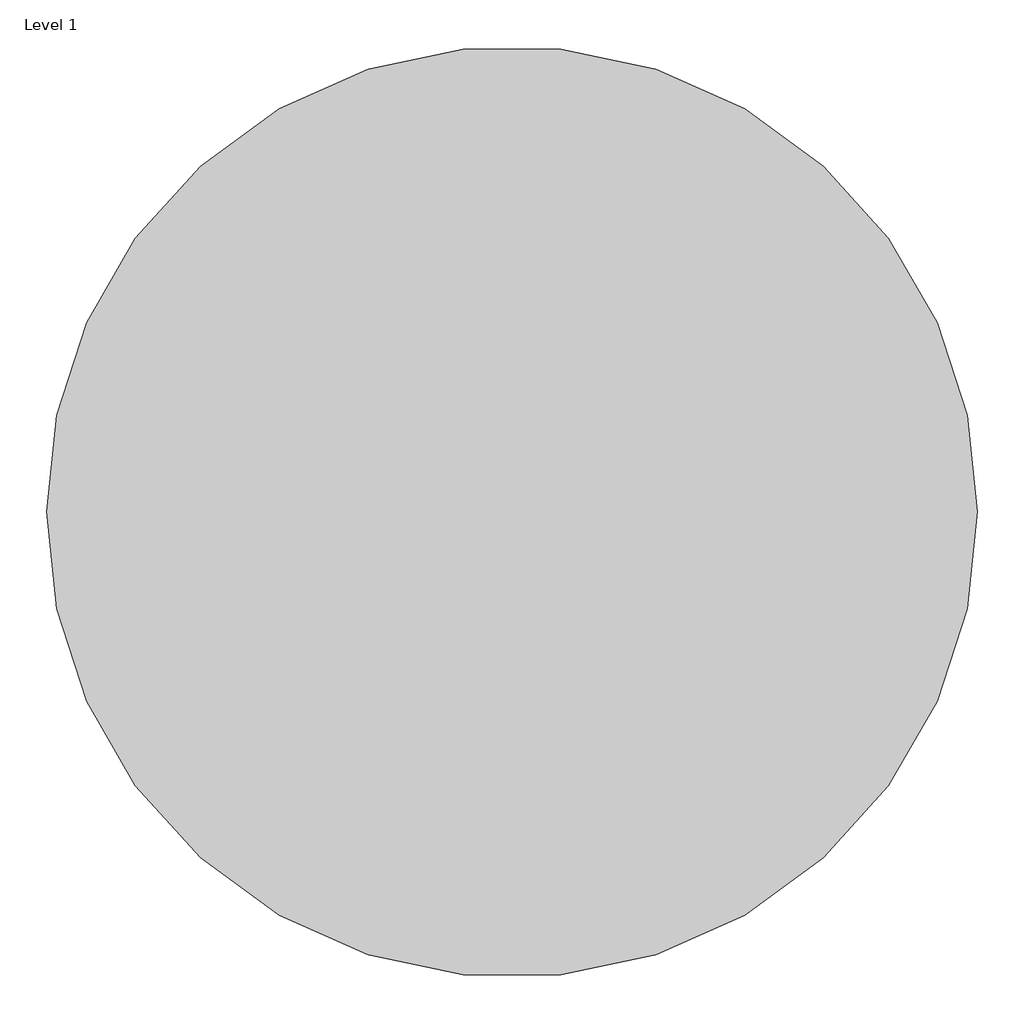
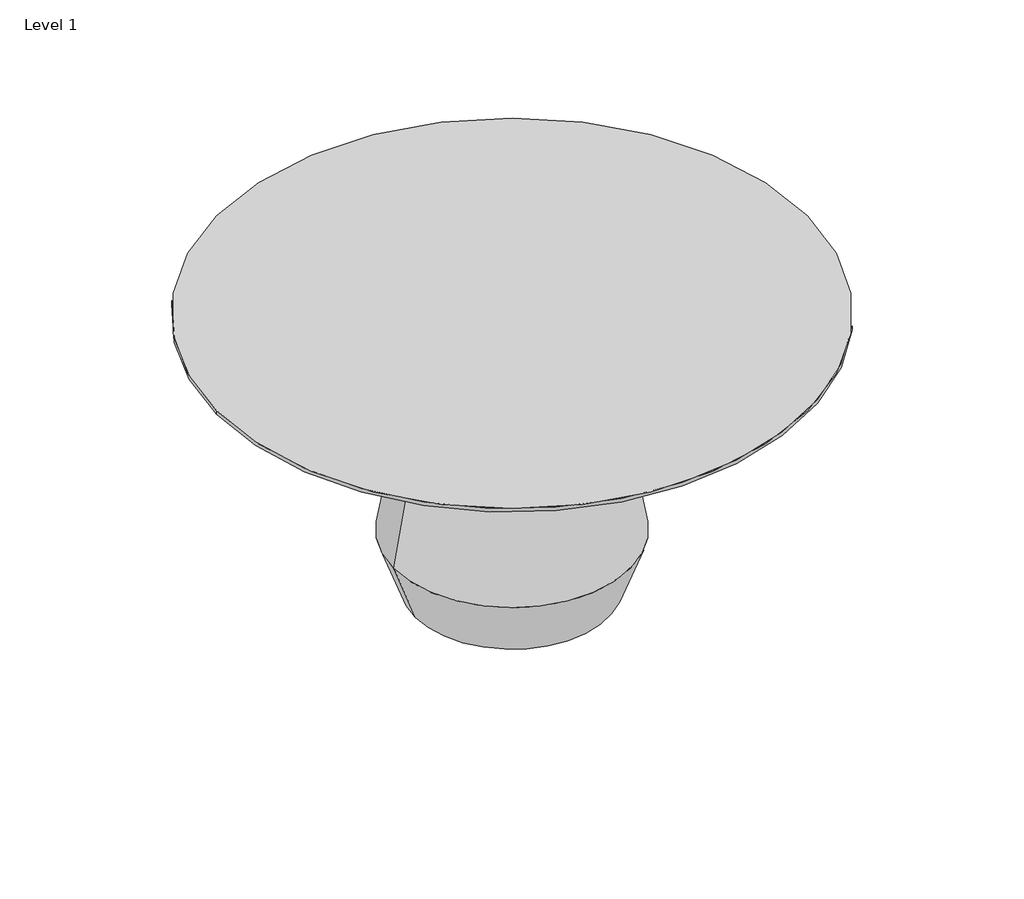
# One storey: 1 proxy.
"""IFC4 building model written with IfcOpenShell, lengths in millimetres."""

from ifc_helpers import new_model, si_unit, origin, place, context, project, spatial, transform, mapped, element, save
from components import generic_models_f743511a

model = new_model("IFC4")

# Units and contexts
model_context = context("Model", 3, world=origin())
ifc_project = project(units=[si_unit("LENGTHUNIT", "METRE", prefix="MILLI")], contexts=[model_context])

# Site, building, storey
site = spatial("IfcSite", under=ifc_project)
building = spatial("IfcBuilding", under=site)
storey = spatial("IfcBuildingStorey", under=building, Name="Level 1", Elevation=0.0)

# Proxy
placement = place(None, origin())
generic_models_shape = generic_models_f743511a(model_context)
element("IfcBuildingElementProxy", 1, Name="GRADIENT^TABLE 3_RADIUS DBL DRUM BASE-60 ROUND TOP", ObjectType="GRADIENT^TABLE 3_RADIUS DBL DRUM BASE-60 ROUND TOP", at=placement, inside=storey, context=model_context, shape_type="MappedRepresentation", body=[
    mapped(generic_models_shape, transform((0.0, 0.0, 0.0), x_axis=(1.0, 0.0, 0.0), y_axis=(0.0, 0.0, 1.0), z_axis=(0.0, -1.0, 0.0))),
])

save(model, "model.ifc")
